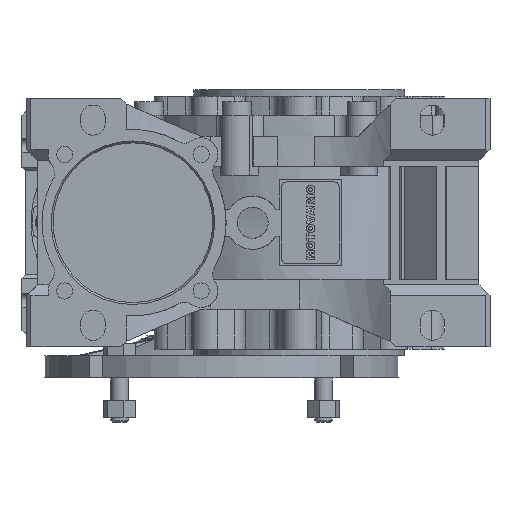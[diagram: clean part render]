
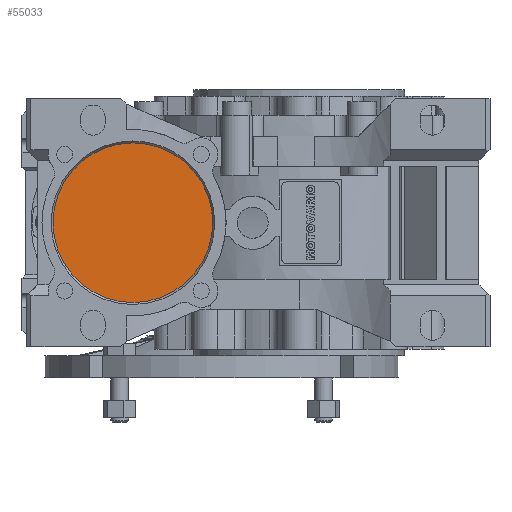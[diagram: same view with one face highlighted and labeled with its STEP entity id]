
A CAD part, left-side view. The second image highlights one B-rep face of the part: STEP entity #55033.
In plain terms, the highlighted planar face has unit normal (-1, 0, 0) as drawn and (0, 0, -1) by its records, which use the part's own axes.
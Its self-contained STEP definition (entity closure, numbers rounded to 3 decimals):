
#750=PLANE('',#58082);
#9987=CIRCLE('',#58081,36.);
#14892=ORIENTED_EDGE('',*,*,#25070,.F.);
#25070=EDGE_CURVE('',#30346,#30346,#9987,.T.);
#30346=VERTEX_POINT('',#77808);
#33642=EDGE_LOOP('',(#14892));
#36331=FACE_BOUND('',#33642,.T.);
#55033=ADVANCED_FACE('',(#36331),#750,.T.);
#58081=AXIS2_PLACEMENT_3D('',#77807,#64946,#64947);
#58082=AXIS2_PLACEMENT_3D('',#77809,#64948,#64949);
#64946=DIRECTION('',(0.,0.,1.));
#64947=DIRECTION('',(1.,0.,0.));
#64948=DIRECTION('',(0.,0.,-1.));
#64949=DIRECTION('',(-1.,0.,0.));
#77807=CARTESIAN_POINT('',(0.,75.,-87.5));
#77808=CARTESIAN_POINT('',(36.,75.,-87.5));
#77809=CARTESIAN_POINT('',(36.,75.,-87.5));
